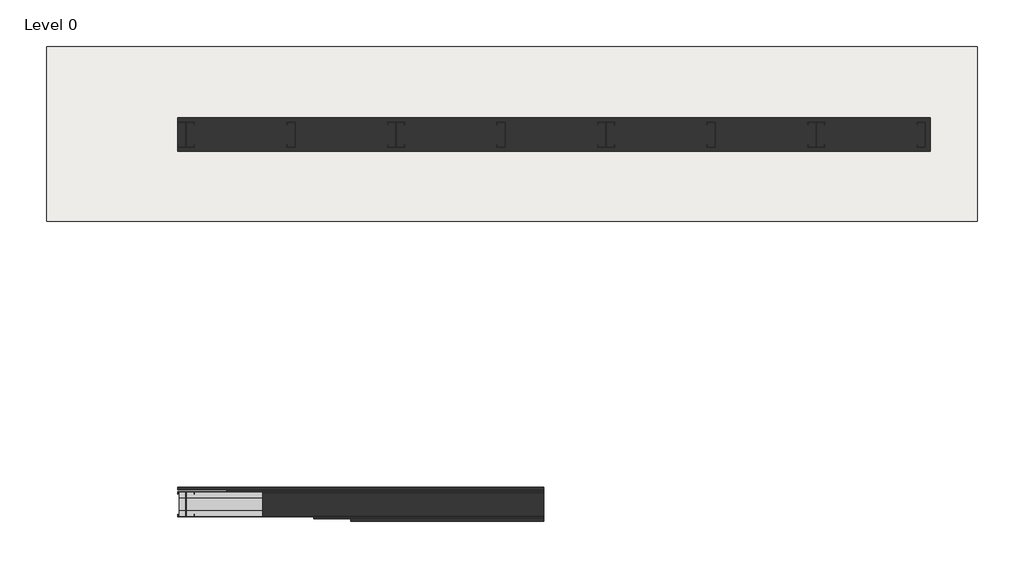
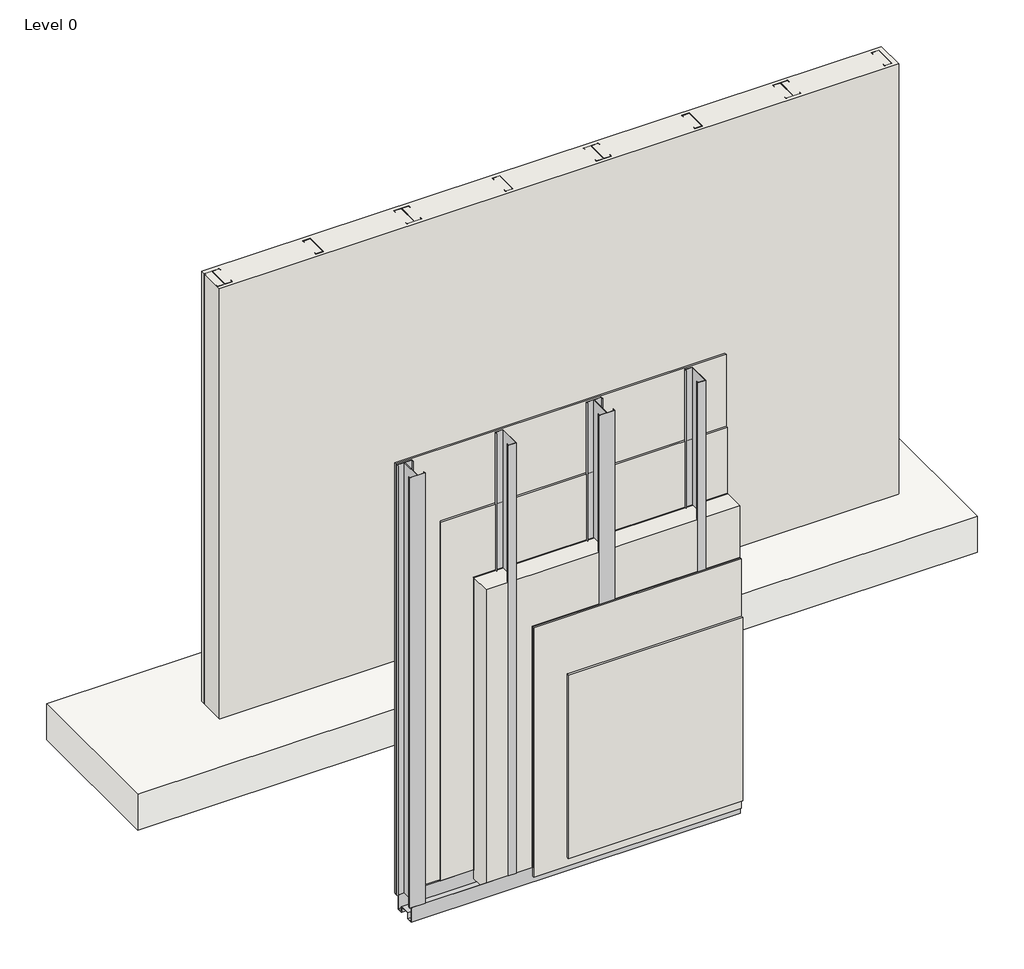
# One storey: 4 proxies, 2 walls, 1 slab.
"""IFC4 building model written with IfcOpenShell, lengths in millimetres."""

from ifc_helpers import new_model, si_unit, point, frame, frame_2d, origin, origin_with_axes, place, context, project, spatial, polyline, circle_curve, trimmed, segment, composite_curve, outline, extrude, transform, mapped, element, save
from components import generic_models_1a6a84ba, horizontal_m_profile_150mm_horizontal_m_profile_150mm_1a6e84d7, horizontal_m_profile_150mm_horizontal_m_profile_150mm_2e45c9e0

model = new_model("IFC4")

# Units and contexts
model_context = context("Model", 3, world=origin())
ifc_project = project(units=[si_unit("LENGTHUNIT", "METRE", prefix="MILLI")], contexts=[model_context])

# Site, building, storey
site = spatial("IfcSite", under=ifc_project)
building = spatial("IfcBuilding", under=site)
storey = spatial("IfcBuildingStorey", under=building, Name="Level 0", Elevation=0.0)

# Proxies
placement = place(None, origin())
element("IfcBuildingElementProxy", 1, Name="C and 2xCprofile 150mm : C and 2xCprofile 150mm", ObjectType="C and 2xCprofile 150mm : C and 2xCprofile 150mm", at=placement, inside=storey, context=model_context, shape_type="SweptSolid", body=[
    extrude(outline(composite_curve([segment(polyline([(34308.8987507, 642.6643687), (34308.8987507, 790.2643687), (34261.2987507, 790.2643687), (34261.2987507, 776.4643687), (34260.0987507, 776.4643687), (34260.0987507, 790.7914504)]), True, "CONTINUOUS"), segment(trimmed(circle_curve(frame_2d((34260.771669, 790.7914504)), 0.6729183), [point((34260.0987507, 790.7914504))], [point((34260.771669, 791.4643687))], False, "CARTESIAN"), True, "CONTINUOUS"), segment(polyline([(34260.771669, 791.4643687), (34310.0987507, 791.4643687), (34310.0987507, 641.4643687), (34260.0987507, 641.4643687), (34260.0987507, 656.4643687), (34261.2987507, 656.4643687), (34261.2987507, 642.6643687), (34308.8987507, 642.6643687)]), True, "CONTINUOUS")], self_intersect=False)), origin_with_axes(), (0.0, 0.0, 1.0), 3000.0),
    extrude(outline(composite_curve([segment(polyline([(35558.8987507, 642.6643687), (35558.8987507, 790.2643687), (35511.2987507, 790.2643687), (35511.2987507, 776.4643687), (35510.0987507, 776.4643687), (35510.0987507, 790.7914504)]), True, "CONTINUOUS"), segment(trimmed(circle_curve(frame_2d((35510.771669, 790.7914504)), 0.6729183), [point((35510.0987507, 790.7914504))], [point((35510.771669, 791.4643687))], False, "CARTESIAN"), True, "CONTINUOUS"), segment(polyline([(35510.771669, 791.4643687), (35560.0987507, 791.4643687), (35560.0987507, 641.4643687), (35510.0987507, 641.4643687), (35510.0987507, 656.4643687), (35511.2987507, 656.4643687), (35511.2987507, 642.6643687), (35558.8987507, 642.6643687)]), True, "CONTINUOUS")], self_intersect=False)), origin_with_axes(), (0.0, 0.0, 1.0), 3000.0),
    extrude(outline(composite_curve([segment(polyline([(36808.8987507, 642.6643687), (36808.8987507, 790.2643687), (36761.2987507, 790.2643687), (36761.2987507, 776.4643687), (36760.0987507, 776.4643687), (36760.0987507, 790.7914504)]), True, "CONTINUOUS"), segment(trimmed(circle_curve(frame_2d((36760.771669, 790.7914504)), 0.6729183), [point((36760.0987507, 790.7914504))], [point((36760.771669, 791.4643687))], False, "CARTESIAN"), True, "CONTINUOUS"), segment(polyline([(36760.771669, 791.4643687), (36810.0987507, 791.4643687), (36810.0987507, 641.4643687), (36760.0987507, 641.4643687), (36760.0987507, 656.4643687), (36761.2987507, 656.4643687), (36761.2987507, 642.6643687), (36808.8987507, 642.6643687)]), True, "CONTINUOUS")], self_intersect=False)), origin_with_axes(), (0.0, 0.0, 1.0), 3000.0),
    extrude(outline(composite_curve([segment(polyline([(33658.8987507, 642.6643687), (33658.8987507, 790.2643687), (33611.2987507, 790.2643687), (33611.2987507, 776.4643687), (33610.0987507, 776.4643687), (33610.0987507, 790.7914504)]), True, "CONTINUOUS"), segment(trimmed(circle_curve(frame_2d((33610.771669, 790.7914504)), 0.6729183), [point((33610.0987507, 790.7914504))], [point((33610.771669, 791.4643687))], False, "CARTESIAN"), True, "CONTINUOUS"), segment(polyline([(33610.771669, 791.4643687), (33710.0987507, 791.4643687), (33710.0987507, 776.4643687), (33708.8987507, 776.4643687), (33708.8987507, 790.2643687), (33661.2987507, 790.2643687), (33661.2987507, 642.6643687), (33708.8987507, 642.6643687), (33708.8987507, 656.4643687), (33710.0987507, 656.4643687), (33710.0987507, 641.4643687), (33610.0987507, 641.4643687), (33610.0987507, 656.4643687), (33611.2987507, 656.4643687), (33611.2987507, 642.6643687), (33658.8987507, 642.6643687)]), True, "CONTINUOUS")], self_intersect=False)), origin_with_axes(), (0.0, 0.0, 1.0), 3000.0),
    extrude(outline(composite_curve([segment(polyline([(34908.8987507, 642.6643687), (34908.8987507, 790.2643687), (34861.2987507, 790.2643687), (34861.2987507, 776.4643687), (34860.0987507, 776.4643687), (34860.0987507, 790.7914504)]), True, "CONTINUOUS"), segment(trimmed(circle_curve(frame_2d((34860.771669, 790.7914504)), 0.6729183), [point((34860.0987507, 790.7914504))], [point((34860.771669, 791.4643687))], False, "CARTESIAN"), True, "CONTINUOUS"), segment(polyline([(34860.771669, 791.4643687), (34960.0987507, 791.4643687), (34960.0987507, 776.4643687), (34958.8987507, 776.4643687), (34958.8987507, 790.2643687), (34911.2987507, 790.2643687), (34911.2987507, 642.6643687), (34958.8987507, 642.6643687), (34958.8987507, 656.4643687), (34960.0987507, 656.4643687), (34960.0987507, 641.4643687), (34860.0987507, 641.4643687), (34860.0987507, 656.4643687), (34861.2987507, 656.4643687), (34861.2987507, 642.6643687), (34908.8987507, 642.6643687)]), True, "CONTINUOUS")], self_intersect=False)), origin_with_axes(), (0.0, 0.0, 1.0), 3000.0),
    extrude(outline(composite_curve([segment(polyline([(36158.8987507, 642.6643687), (36158.8987507, 790.2643687), (36111.2987507, 790.2643687), (36111.2987507, 776.4643687), (36110.0987507, 776.4643687), (36110.0987507, 790.7914504)]), True, "CONTINUOUS"), segment(trimmed(circle_curve(frame_2d((36110.771669, 790.7914504)), 0.6729183), [point((36110.0987507, 790.7914504))], [point((36110.771669, 791.4643687))], False, "CARTESIAN"), True, "CONTINUOUS"), segment(polyline([(36110.771669, 791.4643687), (36210.0987507, 791.4643687), (36210.0987507, 776.4643687), (36208.8987507, 776.4643687), (36208.8987507, 790.2643687), (36161.2987507, 790.2643687), (36161.2987507, 642.6643687), (36208.8987507, 642.6643687), (36208.8987507, 656.4643687), (36210.0987507, 656.4643687), (36210.0987507, 641.4643687), (36110.0987507, 641.4643687), (36110.0987507, 656.4643687), (36111.2987507, 656.4643687), (36111.2987507, 642.6643687), (36158.8987507, 642.6643687)]), True, "CONTINUOUS")], self_intersect=False)), origin_with_axes(), (0.0, 0.0, 1.0), 3000.0),
    extrude(outline(composite_curve([segment(polyline([(38058.8987507, 642.6643687), (38058.8987507, 790.2643687), (38011.2987507, 790.2643687), (38011.2987507, 776.4643687), (38010.0987507, 776.4643687), (38010.0987507, 790.7914504)]), True, "CONTINUOUS"), segment(trimmed(circle_curve(frame_2d((38010.771669, 790.7914504)), 0.6729183), [point((38010.0987507, 790.7914504))], [point((38010.771669, 791.4643687))], False, "CARTESIAN"), True, "CONTINUOUS"), segment(polyline([(38010.771669, 791.4643687), (38060.0987507, 791.4643687), (38060.0987507, 641.4643687), (38010.0987507, 641.4643687), (38010.0987507, 656.4643687), (38011.2987507, 656.4643687), (38011.2987507, 642.6643687), (38058.8987507, 642.6643687)]), True, "CONTINUOUS")], self_intersect=False)), origin_with_axes(), (0.0, 0.0, 1.0), 3000.0),
    extrude(outline(composite_curve([segment(polyline([(37408.8987507, 642.6643687), (37408.8987507, 790.2643687), (37361.2987507, 790.2643687), (37361.2987507, 776.4643687), (37360.0987507, 776.4643687), (37360.0987507, 790.7914504)]), True, "CONTINUOUS"), segment(trimmed(circle_curve(frame_2d((37360.771669, 790.7914504)), 0.6729183), [point((37360.0987507, 790.7914504))], [point((37360.771669, 791.4643687))], False, "CARTESIAN"), True, "CONTINUOUS"), segment(polyline([(37360.771669, 791.4643687), (37460.0987507, 791.4643687), (37460.0987507, 776.4643687), (37458.8987507, 776.4643687), (37458.8987507, 790.2643687), (37411.2987507, 790.2643687), (37411.2987507, 642.6643687), (37458.8987507, 642.6643687), (37458.8987507, 656.4643687), (37460.0987507, 656.4643687), (37460.0987507, 641.4643687), (37360.0987507, 641.4643687), (37360.0987507, 656.4643687), (37361.2987507, 656.4643687), (37361.2987507, 642.6643687), (37408.8987507, 642.6643687)]), True, "CONTINUOUS")], self_intersect=False)), origin_with_axes(), (0.0, 0.0, 1.0), 3000.0),
])
generic_models_shape = generic_models_1a6a84ba(model_context)
element("IfcBuildingElementProxy", 2, Name="C and 2xCprofile 150mm : C and 2xCprofile 150mm", ObjectType="C and 2xCprofile 150mm : C and 2xCprofile 150mm", at=placement, inside=storey, context=model_context, shape_type="MappedRepresentation", body=[
    mapped(generic_models_shape, transform((33685.0987507, -1483.5356313, 0.0), x_axis=(1.0, 0.0, 0.0), y_axis=(0.0, 0.0, 1.0), z_axis=(0.0, -1.0, 0.0))),
])
horizontal_m_profile_150mm_horizontal_m_profile_150mm_shape = horizontal_m_profile_150mm_horizontal_m_profile_150mm_1a6e84d7(model_context)
element("IfcBuildingElementProxy", 3, Name="Horizontal M profile 150mm : Horizontal M profile 150mm", ObjectType="Horizontal M profile 150mm : Horizontal M profile 150mm", at=placement, inside=storey, context=model_context, shape_type="MappedRepresentation", body=[
    mapped(horizontal_m_profile_150mm_horizontal_m_profile_150mm_shape, transform((33618.7854539, 716.6115906, -100.0), x_axis=(1.0, 0.0, 0.0), y_axis=(0.0, 1.0, 0.0), z_axis=(0.0, 0.0, 1.0))),
])
horizontal_m_profile_150mm_horizontal_m_profile_150mm_2_shape = horizontal_m_profile_150mm_horizontal_m_profile_150mm_2e45c9e0(model_context)
element("IfcBuildingElementProxy", 4, Name="Horizontal M profile 150mm : Horizontal M profile 150mm", ObjectType="Horizontal M profile 150mm : Horizontal M profile 150mm", at=placement, inside=storey, context=model_context, shape_type="MappedRepresentation", body=[
    mapped(horizontal_m_profile_150mm_horizontal_m_profile_150mm_2_shape, transform((33618.7854539, -1483.3884094, -100.0), x_axis=(1.0, 0.0, 0.0), y_axis=(0.0, 1.0, 0.0), z_axis=(0.0, 0.0, 1.0))),
])

# Slab
element("IfcSlab", 5, ObjectType="Floor-Jendy_Joss", at=placement, inside=storey, context=model_context, shape_type="SweptSolid", body=[
    extrude(outline(polyline([(38369.653778, 1240.8230902), (38369.653778, 200.8230902), (32829.653778, 200.8230902), (32829.653778, 1240.8230902), (38369.653778, 1240.8230902)])), frame((0.0, 0.0, -250.0), z_axis=(0.0, 0.0, 1.0), x_axis=(1.0, 0.0, 0.0)), (0.0, 0.0, 1.0), 250.0),
])

# Walls
element("IfcWall", 6, ObjectType="Interior Wall_Modulo_JJ_SI150cg", at=placement, inside=storey, context=model_context, shape_type="SweptSolid", body=[
    extrude(outline(polyline([(38089.653778, 616.4643687), (33609.653778, 616.4643687), (33609.653778, 816.4643687), (38089.653778, 816.4643687), (38089.653778, 616.4643687)]), holes=[composite_curve([segment(polyline([(34308.8987507, 790.2643687), (34308.8987507, 642.6643687), (34261.2987507, 642.6643687), (34261.2987507, 656.4643687), (34260.0987507, 656.4643687), (34260.0987507, 641.4643687), (34310.0987507, 641.4643687), (34310.0987507, 791.4643687), (34260.771669, 791.4643687)]), True, "CONTINUOUS"), segment(trimmed(circle_curve(frame_2d((34260.771669, 790.7914504)), 0.6729183), [point((34260.771669, 791.4643687))], [point((34260.0987507, 790.7914504))], True, "CARTESIAN"), True, "CONTINUOUS"), segment(polyline([(34260.0987507, 790.7914504), (34260.0987507, 776.4643687), (34261.2987507, 776.4643687), (34261.2987507, 790.2643687), (34308.8987507, 790.2643687)]), True, "CONTINUOUS")], self_intersect=False), composite_curve([segment(polyline([(35558.8987507, 790.2643687), (35558.8987507, 642.6643687), (35511.2987507, 642.6643687), (35511.2987507, 656.4643687), (35510.0987507, 656.4643687), (35510.0987507, 641.4643687), (35560.0987507, 641.4643687), (35560.0987507, 791.4643687), (35510.771669, 791.4643687)]), True, "CONTINUOUS"), segment(trimmed(circle_curve(frame_2d((35510.771669, 790.7914504)), 0.6729183), [point((35510.771669, 791.4643687))], [point((35510.0987507, 790.7914504))], True, "CARTESIAN"), True, "CONTINUOUS"), segment(polyline([(35510.0987507, 790.7914504), (35510.0987507, 776.4643687), (35511.2987507, 776.4643687), (35511.2987507, 790.2643687), (35558.8987507, 790.2643687)]), True, "CONTINUOUS")], self_intersect=False), composite_curve([segment(polyline([(36808.8987507, 790.2643687), (36808.8987507, 642.6643687), (36761.2987507, 642.6643687), (36761.2987507, 656.4643687), (36760.0987507, 656.4643687), (36760.0987507, 641.4643687), (36810.0987507, 641.4643687), (36810.0987507, 791.4643687), (36760.771669, 791.4643687)]), True, "CONTINUOUS"), segment(trimmed(circle_curve(frame_2d((36760.771669, 790.7914504)), 0.6729183), [point((36760.771669, 791.4643687))], [point((36760.0987507, 790.7914504))], True, "CARTESIAN"), True, "CONTINUOUS"), segment(polyline([(36760.0987507, 790.7914504), (36760.0987507, 776.4643687), (36761.2987507, 776.4643687), (36761.2987507, 790.2643687), (36808.8987507, 790.2643687)]), True, "CONTINUOUS")], self_intersect=False), composite_curve([segment(polyline([(33658.8987507, 790.2643687), (33658.8987507, 642.6643687), (33611.2987507, 642.6643687), (33611.2987507, 656.4643687), (33610.0987507, 656.4643687), (33610.0987507, 641.4643687), (33710.0987507, 641.4643687), (33710.0987507, 656.4643687), (33708.8987507, 656.4643687), (33708.8987507, 642.6643687), (33661.2987507, 642.6643687), (33661.2987507, 790.2643687), (33708.8987507, 790.2643687), (33708.8987507, 776.4643687), (33710.0987507, 776.4643687), (33710.0987507, 791.4643687), (33610.771669, 791.4643687)]), True, "CONTINUOUS"), segment(trimmed(circle_curve(frame_2d((33610.771669, 790.7914504)), 0.6729183), [point((33610.771669, 791.4643687))], [point((33610.0987507, 790.7914504))], True, "CARTESIAN"), True, "CONTINUOUS"), segment(polyline([(33610.0987507, 790.7914504), (33610.0987507, 776.4643687), (33611.2987507, 776.4643687), (33611.2987507, 790.2643687), (33658.8987507, 790.2643687)]), True, "CONTINUOUS")], self_intersect=False), composite_curve([segment(polyline([(34908.8987507, 790.2643687), (34908.8987507, 642.6643687), (34861.2987507, 642.6643687), (34861.2987507, 656.4643687), (34860.0987507, 656.4643687), (34860.0987507, 641.4643687), (34960.0987507, 641.4643687), (34960.0987507, 656.4643687), (34958.8987507, 656.4643687), (34958.8987507, 642.6643687), (34911.2987507, 642.6643687), (34911.2987507, 790.2643687), (34958.8987507, 790.2643687), (34958.8987507, 776.4643687), (34960.0987507, 776.4643687), (34960.0987507, 791.4643687), (34860.771669, 791.4643687)]), True, "CONTINUOUS"), segment(trimmed(circle_curve(frame_2d((34860.771669, 790.7914504)), 0.6729183), [point((34860.771669, 791.4643687))], [point((34860.0987507, 790.7914504))], True, "CARTESIAN"), True, "CONTINUOUS"), segment(polyline([(34860.0987507, 790.7914504), (34860.0987507, 776.4643687), (34861.2987507, 776.4643687), (34861.2987507, 790.2643687), (34908.8987507, 790.2643687)]), True, "CONTINUOUS")], self_intersect=False), composite_curve([segment(polyline([(36158.8987507, 790.2643687), (36158.8987507, 642.6643687), (36111.2987507, 642.6643687), (36111.2987507, 656.4643687), (36110.0987507, 656.4643687), (36110.0987507, 641.4643687), (36210.0987507, 641.4643687), (36210.0987507, 656.4643687), (36208.8987507, 656.4643687), (36208.8987507, 642.6643687), (36161.2987507, 642.6643687), (36161.2987507, 790.2643687), (36208.8987507, 790.2643687), (36208.8987507, 776.4643687), (36210.0987507, 776.4643687), (36210.0987507, 791.4643687), (36110.771669, 791.4643687)]), True, "CONTINUOUS"), segment(trimmed(circle_curve(frame_2d((36110.771669, 790.7914504)), 0.6729183), [point((36110.771669, 791.4643687))], [point((36110.0987507, 790.7914504))], True, "CARTESIAN"), True, "CONTINUOUS"), segment(polyline([(36110.0987507, 790.7914504), (36110.0987507, 776.4643687), (36111.2987507, 776.4643687), (36111.2987507, 790.2643687), (36158.8987507, 790.2643687)]), True, "CONTINUOUS")], self_intersect=False), composite_curve([segment(polyline([(38058.8987507, 790.2643687), (38058.8987507, 642.6643687), (38011.2987507, 642.6643687), (38011.2987507, 656.4643687), (38010.0987507, 656.4643687), (38010.0987507, 641.4643687), (38060.0987507, 641.4643687), (38060.0987507, 791.4643687), (38010.771669, 791.4643687)]), True, "CONTINUOUS"), segment(trimmed(circle_curve(frame_2d((38010.771669, 790.7914504)), 0.6729183), [point((38010.771669, 791.4643687))], [point((38010.0987507, 790.7914504))], True, "CARTESIAN"), True, "CONTINUOUS"), segment(polyline([(38010.0987507, 790.7914504), (38010.0987507, 776.4643687), (38011.2987507, 776.4643687), (38011.2987507, 790.2643687), (38058.8987507, 790.2643687)]), True, "CONTINUOUS")], self_intersect=False), composite_curve([segment(polyline([(37408.8987507, 790.2643687), (37408.8987507, 642.6643687), (37361.2987507, 642.6643687), (37361.2987507, 656.4643687), (37360.0987507, 656.4643687), (37360.0987507, 641.4643687), (37460.0987507, 641.4643687), (37460.0987507, 656.4643687), (37458.8987507, 656.4643687), (37458.8987507, 642.6643687), (37411.2987507, 642.6643687), (37411.2987507, 790.2643687), (37458.8987507, 790.2643687), (37458.8987507, 776.4643687), (37460.0987507, 776.4643687), (37460.0987507, 791.4643687), (37360.771669, 791.4643687)]), True, "CONTINUOUS"), segment(trimmed(circle_curve(frame_2d((37360.771669, 790.7914504)), 0.6729183), [point((37360.771669, 791.4643687))], [point((37360.0987507, 790.7914504))], True, "CARTESIAN"), True, "CONTINUOUS"), segment(polyline([(37360.0987507, 790.7914504), (37360.0987507, 776.4643687), (37361.2987507, 776.4643687), (37361.2987507, 790.2643687), (37408.8987507, 790.2643687)]), True, "CONTINUOUS")], self_intersect=False)]), origin_with_axes(), (0.0, 0.0, 1.0), 3000.0),
])
element("IfcWall", 7, ObjectType="Interior Wall_Modulo_JJ_SI150cg", at=placement, inside=storey, context=model_context, shape_type="SweptSolid", body=[
    extrude(outline(polyline([(34419.4882243, -1558.5356313), (34419.4882243, -1553.5356313), (35789.653778, -1553.5356313), (35789.653778, -1558.5356313), (34419.4882243, -1558.5356313)])), origin_with_axes(), (0.0, 0.0, 1.0), 1680.0),
    extrude(outline(polyline([(34115.2415544, -1413.5356313), (34115.2415544, -1408.5356313), (35789.653778, -1408.5356313), (35789.653778, -1413.5356313), (34115.2415544, -1413.5356313)])), origin_with_axes(), (0.0, 0.0, 1.0), 2040.0),
    extrude(outline(polyline([(33609.653778, -1383.5356313), (35789.653778, -1383.5356313), (35789.653778, -1396.5356313), (33609.653778, -1396.5356313), (33609.653778, -1383.5356313)])), origin_with_axes(), (0.0, 0.0, 1.0), 3000.0),
    extrude(outline(polyline([(35789.653778, -1583.5356313), (34640.2527192, -1583.5356313), (34640.2527192, -1570.5356313), (35789.653778, -1570.5356313), (35789.653778, -1583.5356313)])), origin_with_axes(), (0.0, 0.0, 1.0), 1280.0),
    extrude(outline(polyline([(34115.2415544, -1553.5356313), (34115.2415544, -1413.5356313), (35789.653778, -1413.5356313), (35789.653778, -1553.5356313), (34115.2415544, -1553.5356313)])), frame((0.0, 0.0, -59.277448), z_axis=(0.0, 0.0, 1.0), x_axis=(1.0, 0.0, 0.0)), (0.0, 0.0, 1.0), 2099.277448),
    extrude(outline(polyline([(34419.4882243, -1570.5356313), (34419.4882243, -1558.5356313), (35789.653778, -1558.5356313), (35789.653778, -1570.5356313), (34419.4882243, -1570.5356313)])), frame((0.0, 0.0, -59.277448), z_axis=(0.0, 0.0, 1.0), x_axis=(1.0, 0.0, 0.0)), (0.0, 0.0, 1.0), 1739.277448),
    extrude(outline(polyline([(33900.7763103, -1408.5356313), (33900.7763103, -1396.5356313), (35789.653778, -1396.5356313), (35789.653778, -1408.5356313), (33900.7763103, -1408.5356313)])), frame((0.0, 0.0, -59.277448), z_axis=(0.0, 0.0, 1.0), x_axis=(1.0, 0.0, 0.0)), (0.0, 0.0, 1.0), 2559.277448),
])

save(model, "model.ifc")
